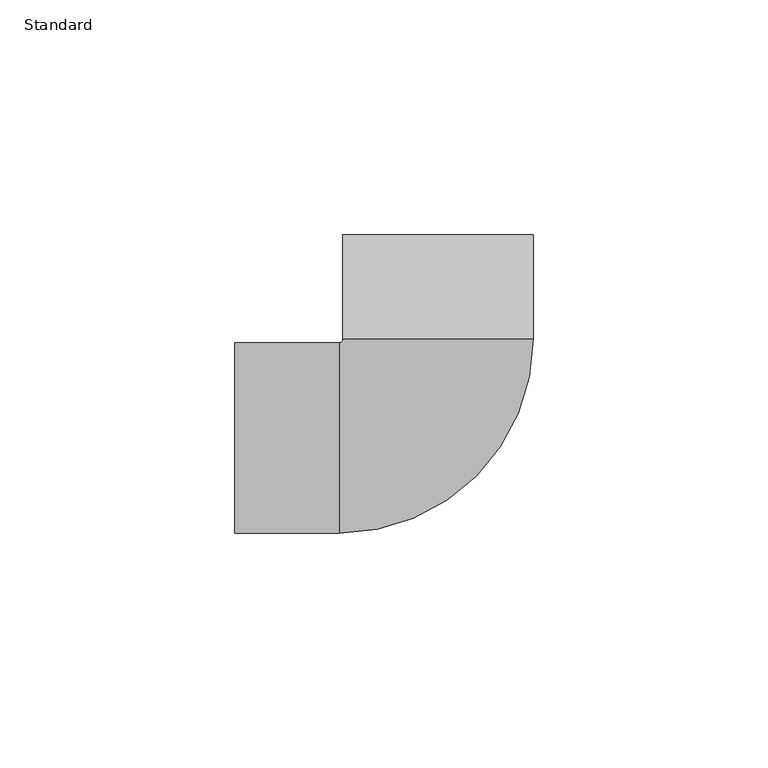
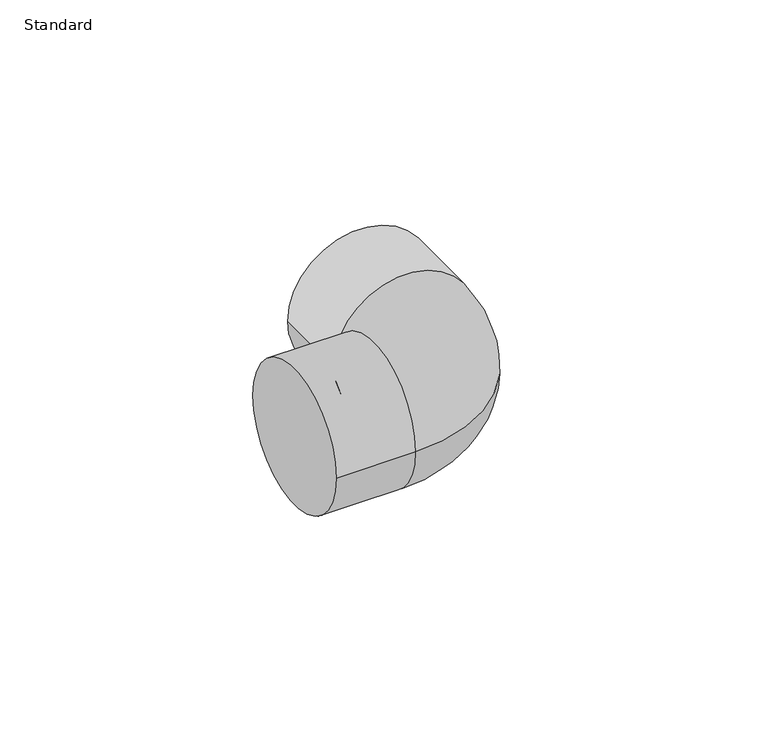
"""IFC4 building model written with IfcOpenShell, lengths in millimetres: pipe fitting geometry, M_Elbow - CPVC - Sch 40 : Standard."""

from ifc_helpers import new_model, si_unit, point, frame, origin, place, context, project, spatial, circle_curve, ellipse_curve, trimmed, source, transform, mapped, element, save
from ifc_brep_helpers import plane_surface, cylinder_surface, revolved_surface, advanced_brep


def standard_ecb2b93d(model_context):
    return source(origin(), model_context, "Body", "AdvancedBrep", [
        advanced_brep(
        [(-43.2625463, -20.2438, 0.0), (-43.2625463, 20.2438, 0.0), (-21.0375463, -20.2438, 0.0), (-21.0375463, 20.2438, 0.0), (-20.2437963, 21.0375499, 0.0), (20.2438037, 21.0375427, 0.0), (20.2438076, 43.2625427, 0.0), (-20.2437924, 43.2625499, 0.0)],
        [
            (0, 1, circle_curve(frame((-43.2625463, 0.0, 0.0), z_axis=(-1.0, 0.0, 0.0), x_axis=(0.0, 1.0, 0.0)), 20.2438)),
            (1, 0, circle_curve(frame((-43.2625463, 0.0, 0.0), z_axis=(-1.0, 0.0, 0.0), x_axis=(0.0, 1.0, 0.0)), 20.2438)),
            (0, 2),
            (2, 3, circle_curve(frame((-21.0375463, 0.0, 0.0), z_axis=(-1.0, 0.0, 0.0), x_axis=(0.0, 1.0, 0.0)), 20.2438)),
            (3, 1),
            (3, 2, circle_curve(frame((-21.0375463, 0.0, 0.0), z_axis=(-1.0, 0.0, 0.0), x_axis=(0.0, 1.0, 0.0)), 20.2438)),
            (4, 3, circle_curve(frame((-21.0375463, 21.03755, 0.0), z_axis=(0.0, 0.0, -1.0), x_axis=(0.0, -1.0, 0.0)), 0.79375)),
            (2, 5, circle_curve(frame((-21.0375463, 21.03755, 0.0), z_axis=(0.0, 0.0, 1.0), x_axis=(0.0, -1.0, 0.0)), 41.28135)),
            (5, 4, circle_curve(frame((3.7e-06, 21.0375463, 0.0), z_axis=(-1.757729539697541e-07, -0.9999999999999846, 0.0), x_axis=(-0.9999999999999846, 1.757729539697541e-07, 0.0)), 20.2438)),
            (4, 5, circle_curve(frame((3.7e-06, 21.0375463, 0.0), z_axis=(-1.757729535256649e-07, -0.9999999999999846, 0.0), x_axis=(-0.9999999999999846, 1.757729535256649e-07, 0.0)), 20.2438)),
            (6, 7, circle_curve(frame((7.6e-06, 43.2625463, 0.0), z_axis=(1.7577295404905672e-07, 0.9999999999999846, 0.0), x_axis=(-0.9999999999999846, 1.7577295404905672e-07, 0.0)), 20.2438)),
            (7, 6, circle_curve(frame((7.6e-06, 43.2625463, 0.0), z_axis=(1.7577295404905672e-07, 0.9999999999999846, 0.0), x_axis=(-0.9999999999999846, 1.7577295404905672e-07, 0.0)), 20.2438)),
            (5, 6),
            (7, 4),
        ],
        [
            plane_surface(frame((-43.2625463, 0.0, 0.0), z_axis=(-1.0, 0.0, 0.0), x_axis=(0.0, 0.0, 1.0))),
            cylinder_surface(frame((-43.2625463, 0.0, 0.0), z_axis=(-1.0, 0.0, 0.0), x_axis=(0.0, 1.0, 0.0)), 20.2438),
            revolved_surface(trimmed(ellipse_curve(frame((-21.0375463, 0.0, 0.0), z_axis=(-1.0, 0.0, 0.0), x_axis=(0.0, 1.0, 0.0)), 20.2438, 20.2438), [point((-21.0375463, -20.2438, 0.0))], [point((-21.0375463, 20.2438, 0.0))], True, "CARTESIAN"), (-21.0375463, 21.03755, 0.0), (0.0, 0.0, 1.0)),
            revolved_surface(trimmed(ellipse_curve(frame((-21.0375463, 0.0, 0.0), z_axis=(-1.0, 0.0, 0.0), x_axis=(0.0, 1.0, 0.0)), 20.2438, 20.2438), [point((-21.0375463, 20.2438, 0.0))], [point((-21.0375463, -20.2438, 0.0))], True, "CARTESIAN"), (-21.0375463, 21.03755, 0.0), (0.0, 0.0, 1.0)),
            plane_surface(frame((7.6e-06, 43.2625463, 0.0), z_axis=(1.7577295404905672e-07, 0.9999999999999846, 0.0), x_axis=(0.0, 0.0, 1.0))),
            cylinder_surface(frame((3.7e-06, 21.0375463, 0.0), z_axis=(-1.7577295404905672e-07, -0.9999999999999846, 0.0), x_axis=(-0.9999999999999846, 1.7577295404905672e-07, 0.0)), 20.2438),
        ],
        [
            (0, [[1, 2]]),
            (1, [[-1, 3, 4, 5]]),
            (1, [[-2, -5, 6, -3]]),
            (2, [[7, -4, 8, 9]]),
            (3, [[-8, -6, -7, 10]]),
            (4, [[11, 12]]),
            (5, [[-9, 13, -12, 14]]),
            (5, [[-10, -14, -11, -13]]),
        ],
    ),
    ])


if __name__ == "__main__":
    model = new_model("IFC4")
    model_context = context("Model", 3, world=origin())
    ifc_project = project(units=[si_unit("LENGTHUNIT", "METRE", prefix="MILLI")], contexts=[model_context])
    site = spatial("IfcSite", under=ifc_project)
    building = spatial("IfcBuilding", under=site)
    placement = place(None, origin())
    standard_shape = standard_ecb2b93d(model_context)
    element("IfcPipeFitting", 1, ObjectType="M_Elbow - CPVC - Sch 40 : Standard", at=placement, inside=building, context=model_context, shape_type="MappedRepresentation", body=[
        mapped(standard_shape, transform((0.0, 0.0, 0.0), x_axis=(1.0, 0.0, 0.0), y_axis=(0.0, 1.0, 0.0), z_axis=(0.0, 0.0, 1.0))),
    ])
    save(model, "model.ifc")
